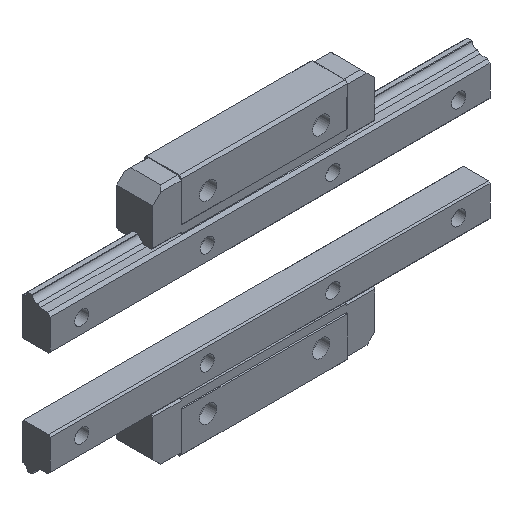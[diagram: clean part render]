
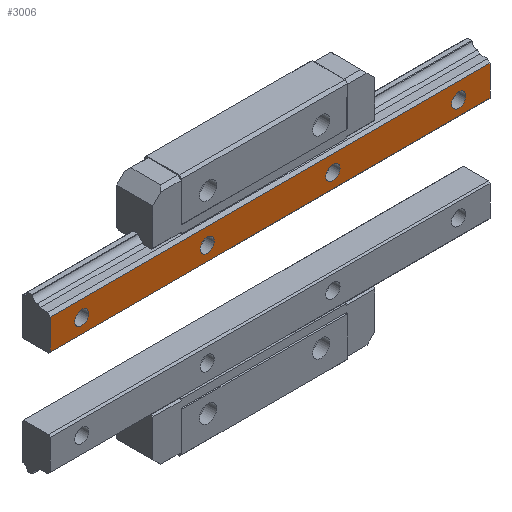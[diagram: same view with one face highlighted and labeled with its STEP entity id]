
A CAD part, isometric view. The second image highlights one B-rep face of the part: STEP entity #3006.
In plain terms, the highlighted planar face has unit normal (0, -1, 0).
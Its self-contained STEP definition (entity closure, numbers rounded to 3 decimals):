
#88=CIRCLE('',#3229,4.5);
#89=CIRCLE('',#3230,4.5);
#90=CIRCLE('',#3231,4.5);
#91=CIRCLE('',#3232,4.5);
#172=ORIENTED_EDGE('',*,*,#999,.F.);
#173=ORIENTED_EDGE('',*,*,#1000,.F.);
#174=ORIENTED_EDGE('',*,*,#1001,.F.);
#175=ORIENTED_EDGE('',*,*,#1002,.F.);
#176=ORIENTED_EDGE('',*,*,#1003,.T.);
#177=ORIENTED_EDGE('',*,*,#1004,.F.);
#178=ORIENTED_EDGE('',*,*,#1005,.F.);
#179=ORIENTED_EDGE('',*,*,#997,.T.);
#997=EDGE_CURVE('',#1411,#1410,#1709,.T.);
#999=EDGE_CURVE('',#1412,#1412,#88,.T.);
#1000=EDGE_CURVE('',#1413,#1413,#89,.T.);
#1001=EDGE_CURVE('',#1414,#1414,#90,.T.);
#1002=EDGE_CURVE('',#1415,#1415,#91,.T.);
#1003=EDGE_CURVE('',#1410,#1416,#1711,.T.);
#1004=EDGE_CURVE('',#1417,#1416,#1712,.T.);
#1005=EDGE_CURVE('',#1411,#1417,#1713,.T.);
#1410=VERTEX_POINT('',#4340);
#1411=VERTEX_POINT('',#4342);
#1412=VERTEX_POINT('',#4346);
#1413=VERTEX_POINT('',#4348);
#1414=VERTEX_POINT('',#4350);
#1415=VERTEX_POINT('',#4352);
#1416=VERTEX_POINT('',#4354);
#1417=VERTEX_POINT('',#4356);
#1709=LINE('',#4341,#2047);
#1711=LINE('',#4353,#2049);
#1712=LINE('',#4355,#2050);
#1713=LINE('',#4357,#2051);
#2047=VECTOR('',#3491,1000.);
#2049=VECTOR('',#3503,1000.);
#2050=VECTOR('',#3504,1000.);
#2051=VECTOR('',#3505,1000.);
#2382=EDGE_LOOP('',(#172));
#2383=EDGE_LOOP('',(#173));
#2384=EDGE_LOOP('',(#174));
#2385=EDGE_LOOP('',(#175));
#2386=EDGE_LOOP('',(#176,#177,#178,#179));
#2628=FACE_BOUND('',#2382,.T.);
#2629=FACE_BOUND('',#2383,.T.);
#2630=FACE_BOUND('',#2384,.T.);
#2631=FACE_BOUND('',#2385,.T.);
#2632=FACE_BOUND('',#2386,.T.);
#2876=PLANE('',#3228);
#3006=ADVANCED_FACE('',(#2628,#2629,#2630,#2631,#2632),#2876,.F.);
#3228=AXIS2_PLACEMENT_3D('',#4344,#3493,#3494);
#3229=AXIS2_PLACEMENT_3D('',#4345,#3495,#3496);
#3230=AXIS2_PLACEMENT_3D('',#4347,#3497,#3498);
#3231=AXIS2_PLACEMENT_3D('',#4349,#3499,#3500);
#3232=AXIS2_PLACEMENT_3D('',#4351,#3501,#3502);
#3491=DIRECTION('',(0.,0.,-1.));
#3493=DIRECTION('',(0.,1.,0.));
#3494=DIRECTION('',(0.,0.,1.));
#3495=DIRECTION('',(0.,-1.,0.));
#3496=DIRECTION('',(0.,0.,-1.));
#3497=DIRECTION('',(0.,-1.,0.));
#3498=DIRECTION('',(0.,0.,-1.));
#3499=DIRECTION('',(0.,-1.,0.));
#3500=DIRECTION('',(0.,0.,-1.));
#3501=DIRECTION('',(0.,-1.,0.));
#3502=DIRECTION('',(0.,0.,-1.));
#3503=DIRECTION('',(1.,0.,0.));
#3504=DIRECTION('',(0.,0.,-1.));
#3505=DIRECTION('',(1.,0.,0.));
#4340=CARTESIAN_POINT('',(1.,0.,-260.));
#4341=CARTESIAN_POINT('',(1.,0.,20.));
#4342=CARTESIAN_POINT('',(1.,0.,20.));
#4344=CARTESIAN_POINT('',(1.,0.,20.));
#4345=CARTESIAN_POINT('',(10.,0.,-80.));
#4346=CARTESIAN_POINT('',(10.,0.,-84.5));
#4347=CARTESIAN_POINT('',(10.,0.,-160.));
#4348=CARTESIAN_POINT('',(10.,0.,-164.5));
#4349=CARTESIAN_POINT('',(10.,0.,-240.));
#4350=CARTESIAN_POINT('',(10.,0.,-244.5));
#4351=CARTESIAN_POINT('',(10.,0.,0.));
#4352=CARTESIAN_POINT('',(10.,0.,-4.5));
#4353=CARTESIAN_POINT('',(1.,0.,-260.));
#4354=CARTESIAN_POINT('',(20.3,0.,-260.));
#4355=CARTESIAN_POINT('',(20.3,0.,20.));
#4356=CARTESIAN_POINT('',(20.3,0.,20.));
#4357=CARTESIAN_POINT('',(1.,0.,20.));
